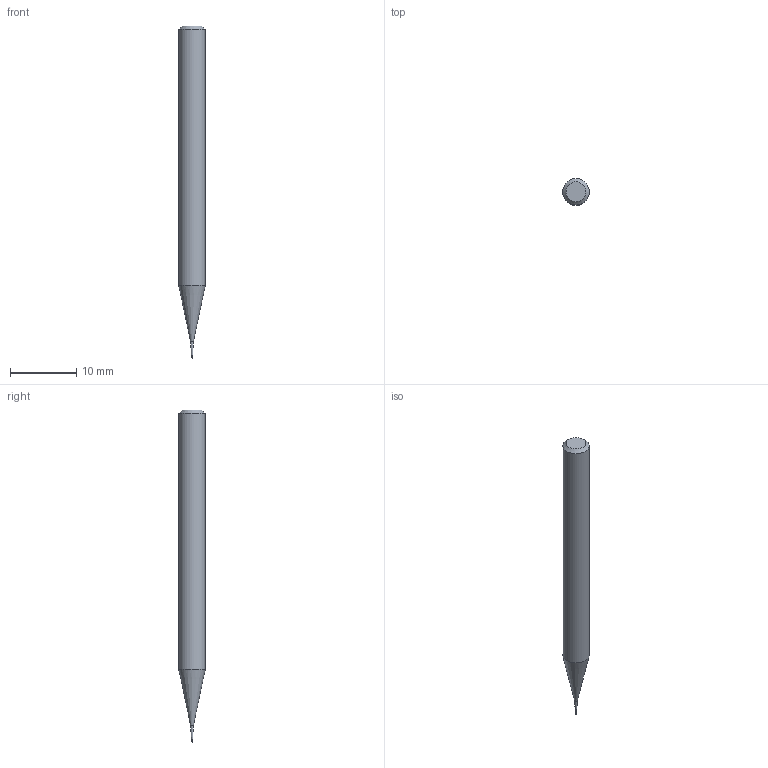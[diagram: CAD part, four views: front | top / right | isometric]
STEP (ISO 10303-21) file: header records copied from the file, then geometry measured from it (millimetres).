
FILE_DESCRIPTION((''),'2;1');
FILE_NAME('C:\Users\nsx150\AppData\Local\Temp\Mastercam 2021\SNAKH10GOD\TEMP.step','2021-10-21T13:30:42',(''),(''),'STEP Write','Mastercam 2021 ... CNC Software, Inc.','');
FILE_SCHEMA(('AUTOMOTIVE_DESIGN'));
Length unit declared in the file: millimetre
Products named in the file (1): None
Bounding box: 4 x 4 x 50 mm (x, y, z)
Volume: 529.2 mm3; surface area: 561.8 mm2
Topology: 2 solids, 2 shells, 10 faces, 16 edges, 9 vertices
Faces by surface type: plane 3, cylinder 3, cone 3, sphere 1
Full cylindrical faces by diameter (mm): 0.195 x1, 0.2 x1, 4 x1
Entity records: 232 total; most frequent: DIRECTION 40, CARTESIAN_POINT 28, AXIS2_PLACEMENT_3D 20, ORIENTED_EDGE 16, EDGE_LOOP 16, STYLED_ITEM 13, ADVANCED_FACE 10, FACE_BOUND 9
